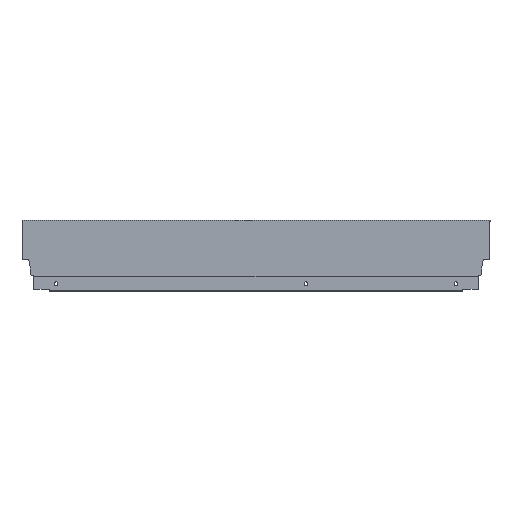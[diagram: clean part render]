
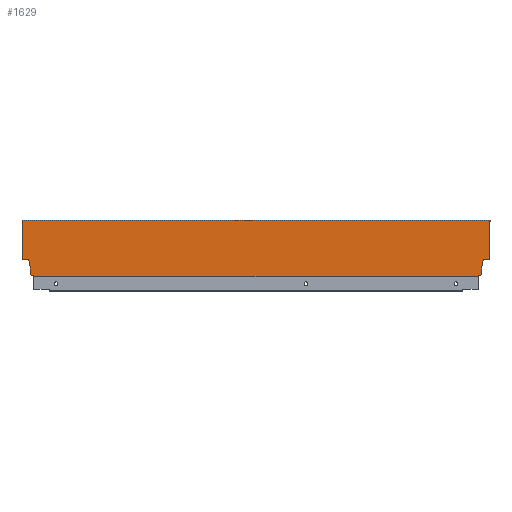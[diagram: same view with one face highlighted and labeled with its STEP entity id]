
A CAD part, top view. The second image highlights one B-rep face of the part: STEP entity #1629.
In plain terms, the highlighted planar face has unit normal (0, 0, 1).
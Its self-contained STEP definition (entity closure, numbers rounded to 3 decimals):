
#4 = VERTEX_POINT ( 'NONE', #1018 ) ;
#107 = VECTOR ( 'NONE', #1203, 1000. ) ;
#108 = LINE ( 'NONE', #1202, #107 ) ;
#112 = VECTOR ( 'NONE', #1199, 1000. ) ;
#116 = VECTOR ( 'NONE', #1195, 1000. ) ;
#117 = LINE ( 'NONE', #1196, #112 ) ;
#120 = VECTOR ( 'NONE', #1191, 1000. ) ;
#121 = LINE ( 'NONE', #1192, #116 ) ;
#123 = VECTOR ( 'NONE', #1187, 1000. ) ;
#124 = LINE ( 'NONE', #1186, #123 ) ;
#126 = VECTOR ( 'NONE', #1185, 1000. ) ;
#127 = VECTOR ( 'NONE', #1183, 1000. ) ;
#128 = LINE ( 'NONE', #1182, #127 ) ;
#129 = VECTOR ( 'NONE', #1181, 1000. ) ;
#130 = LINE ( 'NONE', #1180, #129 ) ;
#133 = LINE ( 'NONE', #1188, #120 ) ;
#134 = VECTOR ( 'NONE', #1177, 1000. ) ;
#136 = VECTOR ( 'NONE', #1175, 1000. ) ;
#138 = LINE ( 'NONE', #1166, #136 ) ;
#139 = LINE ( 'NONE', #1174, #134 ) ;
#140 = LINE ( 'NONE', #1176, #126 ) ;
#141 = VECTOR ( 'NONE', #1168, 1000. ) ;
#142 = LINE ( 'NONE', #1167, #141 ) ;
#143 = LINE ( 'NONE', #1172, #145 ) ;
#145 = VECTOR ( 'NONE', #1173, 1000. ) ;
#147 = VECTOR ( 'NONE', #1164, 1000. ) ;
#149 = VECTOR ( 'NONE', #1160, 1000. ) ;
#152 = LINE ( 'NONE', #1159, #147 ) ;
#153 = VECTOR ( 'NONE', #1156, 1000. ) ;
#155 = LINE ( 'NONE', #1148, #153 ) ;
#157 = LINE ( 'NONE', #1157, #149 ) ;
#169 = VECTOR ( 'NONE', #1137, 1000. ) ;
#178 = LINE ( 'NONE', #1133, #169 ) ;
#365 = EDGE_LOOP ( 'NONE', ( #496, #537, #542, #493, #527, #521, #520, #513, #529, #528, #536, #544, #432, #453, #454, #531, #530, #436 ) ) ;
#432 = ORIENTED_EDGE ( 'NONE', *, *, #817, .F. ) ;
#436 = ORIENTED_EDGE ( 'NONE', *, *, #825, .F. ) ;
#453 = ORIENTED_EDGE ( 'NONE', *, *, #819, .F. ) ;
#454 = ORIENTED_EDGE ( 'NONE', *, *, #821, .F. ) ;
#493 = ORIENTED_EDGE ( 'NONE', *, *, #814, .T. ) ;
#496 = ORIENTED_EDGE ( 'NONE', *, *, #808, .F. ) ;
#513 = ORIENTED_EDGE ( 'NONE', *, *, #1001, .F. ) ;
#520 = ORIENTED_EDGE ( 'NONE', *, *, #810, .F. ) ;
#521 = ORIENTED_EDGE ( 'NONE', *, *, #811, .F. ) ;
#527 = ORIENTED_EDGE ( 'NONE', *, *, #806, .F. ) ;
#528 = ORIENTED_EDGE ( 'NONE', *, *, #802, .T. ) ;
#529 = ORIENTED_EDGE ( 'NONE', *, *, #812, .F. ) ;
#530 = ORIENTED_EDGE ( 'NONE', *, *, #823, .F. ) ;
#531 = ORIENTED_EDGE ( 'NONE', *, *, #793, .F. ) ;
#536 = ORIENTED_EDGE ( 'NONE', *, *, #816, .F. ) ;
#537 = ORIENTED_EDGE ( 'NONE', *, *, #815, .F. ) ;
#542 = ORIENTED_EDGE ( 'NONE', *, *, #804, .T. ) ;
#544 = ORIENTED_EDGE ( 'NONE', *, *, #1000, .F. ) ;
#616 = VECTOR ( 'NONE', #1398, 1000. ) ;
#620 = LINE ( 'NONE', #1397, #616 ) ;
#640 = LINE ( 'NONE', #1401, #642 ) ;
#642 = VECTOR ( 'NONE', #1402, 1000. ) ;
#643 = FACE_OUTER_BOUND ( 'NONE', #365, .T. ) ;
#710 = VERTEX_POINT ( 'NONE', #1031 ) ;
#714 = VERTEX_POINT ( 'NONE', #1033 ) ;
#720 = VERTEX_POINT ( 'NONE', #1037 ) ;
#721 = VERTEX_POINT ( 'NONE', #1038 ) ;
#723 = VERTEX_POINT ( 'NONE', #1040 ) ;
#728 = VERTEX_POINT ( 'NONE', #1045 ) ;
#730 = VERTEX_POINT ( 'NONE', #1047 ) ;
#731 = VERTEX_POINT ( 'NONE', #1048 ) ;
#736 = VERTEX_POINT ( 'NONE', #1053 ) ;
#743 = VERTEX_POINT ( 'NONE', #1060 ) ;
#759 = VERTEX_POINT ( 'NONE', #1076 ) ;
#762 = VERTEX_POINT ( 'NONE', #1079 ) ;
#793 = EDGE_CURVE ( 'NONE', #998, #991, #178, .T. ) ;
#802 = EDGE_CURVE ( 'NONE', #720, #710, #155, .T. ) ;
#804 = EDGE_CURVE ( 'NONE', #723, #728, #157, .T. ) ;
#806 = EDGE_CURVE ( 'NONE', #714, #736, #152, .T. ) ;
#808 = EDGE_CURVE ( 'NONE', #731, #743, #142, .T. ) ;
#810 = EDGE_CURVE ( 'NONE', #994, #730, #143, .T. ) ;
#811 = EDGE_CURVE ( 'NONE', #730, #714, #138, .T. ) ;
#812 = EDGE_CURVE ( 'NONE', #720, #992, #139, .T. ) ;
#814 = EDGE_CURVE ( 'NONE', #728, #736, #130, .T. ) ;
#815 = EDGE_CURVE ( 'NONE', #723, #731, #128, .T. ) ;
#816 = EDGE_CURVE ( 'NONE', #721, #710, #140, .T. ) ;
#817 = EDGE_CURVE ( 'NONE', #759, #762, #124, .T. ) ;
#819 = EDGE_CURVE ( 'NONE', #1005, #759, #133, .T. ) ;
#821 = EDGE_CURVE ( 'NONE', #991, #1005, #121, .T. ) ;
#823 = EDGE_CURVE ( 'NONE', #4, #998, #117, .T. ) ;
#825 = EDGE_CURVE ( 'NONE', #743, #4, #108, .T. ) ;
#936 = AXIS2_PLACEMENT_3D ( 'NONE', #1420, #1423, #1424 ) ;
#991 = VERTEX_POINT ( 'NONE', #1367 ) ;
#992 = VERTEX_POINT ( 'NONE', #1391 ) ;
#994 = VERTEX_POINT ( 'NONE', #1392 ) ;
#998 = VERTEX_POINT ( 'NONE', #1395 ) ;
#1000 = EDGE_CURVE ( 'NONE', #762, #721, #620, .T. ) ;
#1001 = EDGE_CURVE ( 'NONE', #992, #994, #640, .T. ) ;
#1005 = VERTEX_POINT ( 'NONE', #1404 ) ;
#1018 = CARTESIAN_POINT ( 'NONE',  ( 1., 66.5, 7.5 ) ) ;
#1031 = CARTESIAN_POINT ( 'NONE',  ( -13.004, 0., 7.5 ) ) ;
#1033 = CARTESIAN_POINT ( 'NONE',  ( -553.94, 21.2, 7.5 ) ) ;
#1037 = CARTESIAN_POINT ( 'NONE',  ( -547.996, 0., 7.5 ) ) ;
#1038 = CARTESIAN_POINT ( 'NONE',  ( -13.004, 1.146, 7.5 ) ) ;
#1040 = CARTESIAN_POINT ( 'NONE',  ( -562., 66.5, 7.5 ) ) ;
#1045 = CARTESIAN_POINT ( 'NONE',  ( -561., 66.5, 7.5 ) ) ;
#1047 = CARTESIAN_POINT ( 'NONE',  ( -552.1, 10.765, 7.5 ) ) ;
#1048 = CARTESIAN_POINT ( 'NONE',  ( -562., 68., 7.5 ) ) ;
#1053 = CARTESIAN_POINT ( 'NONE',  ( -561., 21.2, 7.5 ) ) ;
#1060 = CARTESIAN_POINT ( 'NONE',  ( 1., 68., 7.5 ) ) ;
#1076 = CARTESIAN_POINT ( 'NONE',  ( -8.9, 10.765, 7.5 ) ) ;
#1079 = CARTESIAN_POINT ( 'NONE',  ( -8.9, 2.64, 7.5 ) ) ;
#1133 = CARTESIAN_POINT ( 'NONE',  ( 0., 0., 7.5 ) ) ;
#1137 = DIRECTION ( 'NONE',  ( 0., -1., 0. ) ) ;
#1148 = CARTESIAN_POINT ( 'NONE',  ( -561., 0., 7.5 ) ) ;
#1156 = DIRECTION ( 'NONE',  ( 1., 0., 0. ) ) ;
#1157 = CARTESIAN_POINT ( 'NONE',  ( -562., 66.5, 7.5 ) ) ;
#1159 = CARTESIAN_POINT ( 'NONE',  ( -566., 21.2, 7.5 ) ) ;
#1160 = DIRECTION ( 'NONE',  ( 1., 0., 0. ) ) ;
#1164 = DIRECTION ( 'NONE',  ( -1., 0., 0. ) ) ;
#1166 = CARTESIAN_POINT ( 'NONE',  ( -553.94, 21.2, 7.5 ) ) ;
#1167 = CARTESIAN_POINT ( 'NONE',  ( -561., 68., 7.5 ) ) ;
#1168 = DIRECTION ( 'NONE',  ( 1., 0., 0. ) ) ;
#1172 = CARTESIAN_POINT ( 'NONE',  ( -552.1, 10.765, 7.5 ) ) ;
#1173 = DIRECTION ( 'NONE',  ( 0., 1., 0. ) ) ;
#1174 = CARTESIAN_POINT ( 'NONE',  ( -547.996, 1.146, 7.5 ) ) ;
#1175 = DIRECTION ( 'NONE',  ( -0.174, 0.985, 0. ) ) ;
#1176 = CARTESIAN_POINT ( 'NONE',  ( -13.004, 1.146, 7.5 ) ) ;
#1177 = DIRECTION ( 'NONE',  ( 0., 1., 0. ) ) ;
#1180 = CARTESIAN_POINT ( 'NONE',  ( -561., 0., 7.5 ) ) ;
#1181 = DIRECTION ( 'NONE',  ( 0., -1., 0. ) ) ;
#1182 = CARTESIAN_POINT ( 'NONE',  ( -562., 66.5, 7.5 ) ) ;
#1183 = DIRECTION ( 'NONE',  ( 0., 1., 0. ) ) ;
#1185 = DIRECTION ( 'NONE',  ( 0., -1., 0. ) ) ;
#1186 = CARTESIAN_POINT ( 'NONE',  ( -8.9, 10.765, 7.5 ) ) ;
#1187 = DIRECTION ( 'NONE',  ( 0., -1., 0. ) ) ;
#1188 = CARTESIAN_POINT ( 'NONE',  ( -7.06, 21.2, 7.5 ) ) ;
#1191 = DIRECTION ( 'NONE',  ( -0.174, -0.985, 0. ) ) ;
#1192 = CARTESIAN_POINT ( 'NONE',  ( 0., 21.2, 7.5 ) ) ;
#1195 = DIRECTION ( 'NONE',  ( -1., 0., 0. ) ) ;
#1196 = CARTESIAN_POINT ( 'NONE',  ( 1., 66.5, 7.5 ) ) ;
#1199 = DIRECTION ( 'NONE',  ( -1., 0., 0. ) ) ;
#1202 = CARTESIAN_POINT ( 'NONE',  ( 1., 68., 7.5 ) ) ;
#1203 = DIRECTION ( 'NONE',  ( 0., -1., 0. ) ) ;
#1367 = CARTESIAN_POINT ( 'NONE',  ( 0., 21.2, 7.5 ) ) ;
#1391 = CARTESIAN_POINT ( 'NONE',  ( -547.996, 1.146, 7.5 ) ) ;
#1392 = CARTESIAN_POINT ( 'NONE',  ( -552.1, 2.64, 7.5 ) ) ;
#1395 = CARTESIAN_POINT ( 'NONE',  ( 0., 66.5, 7.5 ) ) ;
#1397 = CARTESIAN_POINT ( 'NONE',  ( -8.9, 2.64, 7.5 ) ) ;
#1398 = DIRECTION ( 'NONE',  ( -0.94, -0.342, 0. ) ) ;
#1401 = CARTESIAN_POINT ( 'NONE',  ( -552.1, 2.64, 7.5 ) ) ;
#1402 = DIRECTION ( 'NONE',  ( -0.94, 0.342, 0. ) ) ;
#1404 = CARTESIAN_POINT ( 'NONE',  ( -7.06, 21.2, 7.5 ) ) ;
#1420 = CARTESIAN_POINT ( 'NONE',  ( -561., 0., 7.5 ) ) ;
#1421 = PLANE ( 'NONE',  #936 ) ;
#1423 = DIRECTION ( 'NONE',  ( 0., 0., 1. ) ) ;
#1424 = DIRECTION ( 'NONE',  ( 1., 0., 0. ) ) ;
#1629 = ADVANCED_FACE ( 'NONE', ( #643 ), #1421, .T. ) ;
